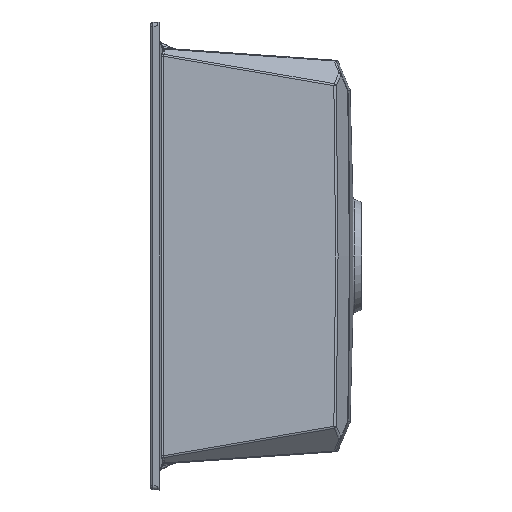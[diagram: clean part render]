
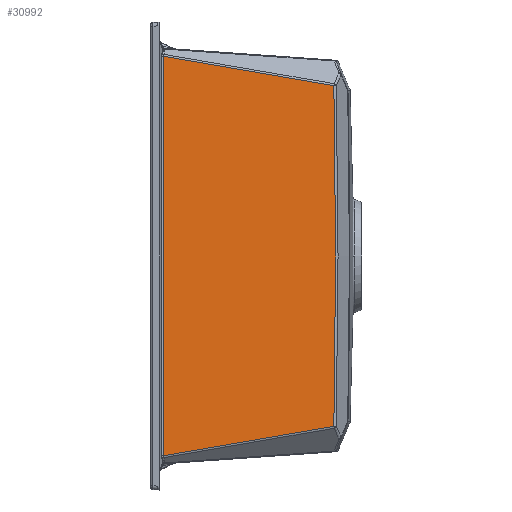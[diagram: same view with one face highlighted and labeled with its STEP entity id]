
A CAD part, left-side view. The second image highlights one B-rep face of the part: STEP entity #30992.
In plain terms, the highlighted planar face has unit normal (-0.998, -0.07, 0).
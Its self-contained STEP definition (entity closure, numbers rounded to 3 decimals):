
#132 = CARTESIAN_POINT ( 'NONE',  ( 40.785, -187.408, -341.188 ) ) ;
#242 = CARTESIAN_POINT ( 'NONE',  ( 40.743, -186.811, -386.498 ) ) ;
#360 = CARTESIAN_POINT ( 'NONE',  ( 40.779, -187.33, -151.768 ) ) ;
#617 = VECTOR ( 'NONE', #26622, 1000. ) ;
#675 = B_SPLINE_CURVE_WITH_KNOTS ( 'NONE', 3,
 ( #11832, #17035, #22325, #25037, #4158, #6753, #24812, #1920, #9374, #12050, #27441, #30162, #7562, #242, #10620, #28473, #2711, #25627, #33429, #26088, #23485, #2600, #132, #7684, #15456, #18410, #18191, #25747, #31299, #12872, #20991, #12755, #2938, #20753, #10514, #10173, #12981, #15801, #5068, #18069, #10399, #5314, #28255, #360, #15688, #30860, #15351, #23367, #31091, #15569, #5530, #8030, #7794, #17947, #7907, #2496, #20543, #18303, #23141 ),
 .UNSPECIFIED., .F., .F.,
 ( 4, 1, 1, 1, 1, 1, 1, 1, 1, 1, 2, 2, 1, 1, 1, 1, 1, 1, 1, 1, 1, 2, 2, 2, 1, 1, 1, 1, 1, 1, 1, 1, 1, 1, 2, 2, 1, 1, 1, 1, 1, 1, 1, 1, 1, 2, 2, 4 ),
 ( 0., 0.062, 0.094, 0.109, 0.117, 0.121, 0.123, 0.124, 0.125, 0.125, 0.125, 0.125, 0.188, 0.219, 0.234, 0.242, 0.246, 0.248, 0.249, 0.25, 0.25, 0.25, 0.25, 0.5, 0.625, 0.688, 0.719, 0.734, 0.742, 0.746, 0.748, 0.749, 0.75, 0.75, 0.75, 0.75, 0.813, 0.844, 0.859, 0.867, 0.871, 0.873, 0.874, 0.875, 0.875, 0.875, 0.875, 1. ),
 .UNSPECIFIED. ) ;
#1184 = VERTEX_POINT ( 'NONE', #16603 ) ;
#1210 = EDGE_LOOP ( 'NONE', ( #16172, #1556, #10925, #6711 ) ) ;
#1556 = ORIENTED_EDGE ( 'NONE', *, *, #15965, .T. ) ;
#1920 = CARTESIAN_POINT ( 'NONE',  ( 40.742, -186.8, -387.262 ) ) ;
#2240 = DIRECTION ( 'NONE',  ( -0.998, -0.07, 0. ) ) ;
#2496 = CARTESIAN_POINT ( 'NONE',  ( 40.743, -186.812, -113.531 ) ) ;
#2600 = CARTESIAN_POINT ( 'NONE',  ( 40.784, -187.406, -341.386 ) ) ;
#2682 = VERTEX_POINT ( 'NONE', #26114 ) ;
#2711 = CARTESIAN_POINT ( 'NONE',  ( 40.774, -187.261, -353.812 ) ) ;
#2819 = EDGE_CURVE ( 'NONE', #2682, #32547, #25294, .T. ) ;
#2938 = CARTESIAN_POINT ( 'NONE',  ( 40.795, -187.557, -173.021 ) ) ;
#3506 = VECTOR ( 'NONE', #19303, 1000. ) ;
#4158 = CARTESIAN_POINT ( 'NONE',  ( 40.736, -186.716, -392.76 ) ) ;
#4497 = CARTESIAN_POINT ( 'NONE',  ( 27.019, 9.442, -465. ) ) ;
#4898 = EDGE_CURVE ( 'NONE', #1184, #32547, #29707, .T. ) ;
#5068 = CARTESIAN_POINT ( 'NONE',  ( 40.785, -187.412, -159.23 ) ) ;
#5314 = CARTESIAN_POINT ( 'NONE',  ( 40.785, -187.41, -159.041 ) ) ;
#5530 = CARTESIAN_POINT ( 'NONE',  ( 40.743, -186.818, -113.95 ) ) ;
#6711 = ORIENTED_EDGE ( 'NONE', *, *, #2819, .T. ) ;
#6753 = CARTESIAN_POINT ( 'NONE',  ( 40.74, -186.764, -389.609 ) ) ;
#7562 = CARTESIAN_POINT ( 'NONE',  ( 40.743, -186.811, -386.511 ) ) ;
#7684 = CARTESIAN_POINT ( 'NONE',  ( 40.785, -187.409, -341.089 ) ) ;
#7794 = CARTESIAN_POINT ( 'NONE',  ( 40.743, -186.813, -113.625 ) ) ;
#7907 = CARTESIAN_POINT ( 'NONE',  ( 40.743, -186.812, -113.548 ) ) ;
#8004 = CARTESIAN_POINT ( 'NONE',  ( 27.947, -3.819, -463.429 ) ) ;
#8030 = CARTESIAN_POINT ( 'NONE',  ( 40.743, -186.815, -113.733 ) ) ;
#9374 = CARTESIAN_POINT ( 'NONE',  ( 40.742, -186.806, -386.872 ) ) ;
#10173 = CARTESIAN_POINT ( 'NONE',  ( 40.786, -187.429, -160.772 ) ) ;
#10399 = CARTESIAN_POINT ( 'NONE',  ( 40.785, -187.411, -159.072 ) ) ;
#10514 = CARTESIAN_POINT ( 'NONE',  ( 40.787, -187.449, -162.532 ) ) ;
#10620 = CARTESIAN_POINT ( 'NONE',  ( 40.751, -186.931, -378.561 ) ) ;
#10923 = DIRECTION ( 'NONE',  ( 0.069, -0.983, -0.17 ) ) ;
#10925 = ORIENTED_EDGE ( 'NONE', *, *, #11303, .F. ) ;
#11303 = EDGE_CURVE ( 'NONE', #2682, #27346, #23030, .T. ) ;
#11832 = CARTESIAN_POINT ( 'NONE',  ( 40.69, -186.058, -431.974 ) ) ;
#12050 = CARTESIAN_POINT ( 'NONE',  ( 40.743, -186.809, -386.678 ) ) ;
#12755 = CARTESIAN_POINT ( 'NONE',  ( 40.804, -187.684, -186.821 ) ) ;
#12872 = CARTESIAN_POINT ( 'NONE',  ( 40.822, -187.947, -235.804 ) ) ;
#12930 = VECTOR ( 'NONE', #10923, 1000. ) ;
#12981 = CARTESIAN_POINT ( 'NONE',  ( 40.785, -187.42, -159.891 ) ) ;
#14641 = DIRECTION ( 'NONE',  ( 0.07, -0.998, 0. ) ) ;
#14648 = CARTESIAN_POINT ( 'NONE',  ( 27.947, -3.819, -465. ) ) ;
#15351 = CARTESIAN_POINT ( 'NONE',  ( 40.75, -186.914, -120.412 ) ) ;
#15456 = CARTESIAN_POINT ( 'NONE',  ( 40.785, -187.409, -341.047 ) ) ;
#15569 = CARTESIAN_POINT ( 'NONE',  ( 40.744, -186.825, -114.383 ) ) ;
#15688 = CARTESIAN_POINT ( 'NONE',  ( 40.77, -187.195, -140.65 ) ) ;
#15774 = CARTESIAN_POINT ( 'NONE',  ( 32.044, -62.41, -46.684 ) ) ;
#15801 = CARTESIAN_POINT ( 'NONE',  ( 40.785, -187.415, -159.45 ) ) ;
#15965 = EDGE_CURVE ( 'NONE', #1184, #27346, #675, .T. ) ;
#16172 = ORIENTED_EDGE ( 'NONE', *, *, #4898, .F. ) ;
#16603 = CARTESIAN_POINT ( 'NONE',  ( 40.69, -186.058, -431.974 ) ) ;
#17034 = PLANE ( 'NONE',  #27214 ) ;
#17035 = CARTESIAN_POINT ( 'NONE',  ( 40.7, -186.202, -423.926 ) ) ;
#17947 = CARTESIAN_POINT ( 'NONE',  ( 40.743, -186.813, -113.579 ) ) ;
#18069 = CARTESIAN_POINT ( 'NONE',  ( 40.785, -187.411, -159.119 ) ) ;
#18191 = CARTESIAN_POINT ( 'NONE',  ( 40.785, -187.41, -341.006 ) ) ;
#18303 = CARTESIAN_POINT ( 'NONE',  ( 40.71, -186.346, -84.123 ) ) ;
#18410 = CARTESIAN_POINT ( 'NONE',  ( 40.785, -187.41, -341.019 ) ) ;
#18762 = CARTESIAN_POINT ( 'NONE',  ( 40.69, -186.058, -68.026 ) ) ;
#19303 = DIRECTION ( 'NONE',  ( 0., 0., -1. ) ) ;
#20543 = CARTESIAN_POINT ( 'NONE',  ( 40.728, -186.598, -99.286 ) ) ;
#20753 = CARTESIAN_POINT ( 'NONE',  ( 40.79, -187.486, -166.042 ) ) ;
#20991 = CARTESIAN_POINT ( 'NONE',  ( 40.818, -187.88, -213.784 ) ) ;
#22325 = CARTESIAN_POINT ( 'NONE',  ( 40.714, -186.405, -412.203 ) ) ;
#23030 = LINE ( 'NONE', #15774, #12930 ) ;
#23141 = CARTESIAN_POINT ( 'NONE',  ( 40.69, -186.058, -68.026 ) ) ;
#23367 = CARTESIAN_POINT ( 'NONE',  ( 40.746, -186.863, -116.974 ) ) ;
#23485 = CARTESIAN_POINT ( 'NONE',  ( 40.784, -187.401, -341.783 ) ) ;
#24812 = CARTESIAN_POINT ( 'NONE',  ( 40.741, -186.788, -388.043 ) ) ;
#25037 = CARTESIAN_POINT ( 'NONE',  ( 40.729, -186.616, -399.139 ) ) ;
#25294 = LINE ( 'NONE', #14648, #3506 ) ;
#25627 = CARTESIAN_POINT ( 'NONE',  ( 40.78, -187.338, -347.364 ) ) ;
#25747 = CARTESIAN_POINT ( 'NONE',  ( 40.81, -187.768, -308.72 ) ) ;
#26088 = CARTESIAN_POINT ( 'NONE',  ( 40.783, -187.392, -342.577 ) ) ;
#26114 = CARTESIAN_POINT ( 'NONE',  ( 27.947, -3.819, -36.571 ) ) ;
#26622 = DIRECTION ( 'NONE',  ( -0.069, 0.983, -0.17 ) ) ;
#27214 = AXIS2_PLACEMENT_3D ( 'NONE', #4497, #2240, #14641 ) ;
#27346 = VERTEX_POINT ( 'NONE', #18762 ) ;
#27441 = CARTESIAN_POINT ( 'NONE',  ( 40.743, -186.81, -386.58 ) ) ;
#28255 = CARTESIAN_POINT ( 'NONE',  ( 40.785, -187.41, -159.023 ) ) ;
#28473 = CARTESIAN_POINT ( 'NONE',  ( 40.763, -187.095, -366.932 ) ) ;
#28995 = CARTESIAN_POINT ( 'NONE',  ( 27.464, 3.091, -464.622 ) ) ;
#29707 = LINE ( 'NONE', #28995, #617 ) ;
#30162 = CARTESIAN_POINT ( 'NONE',  ( 40.743, -186.811, -386.539 ) ) ;
#30759 = FACE_OUTER_BOUND ( 'NONE', #1210, .T. ) ;
#30860 = CARTESIAN_POINT ( 'NONE',  ( 40.757, -187.012, -127.233 ) ) ;
#30992 = ADVANCED_FACE ( 'NONE', ( #30759 ), #17034, .T. ) ;
#31091 = CARTESIAN_POINT ( 'NONE',  ( 40.745, -186.838, -115.248 ) ) ;
#31299 = CARTESIAN_POINT ( 'NONE',  ( 40.822, -187.947, -278.389 ) ) ;
#32547 = VERTEX_POINT ( 'NONE', #8004 ) ;
#33429 = CARTESIAN_POINT ( 'NONE',  ( 40.782, -187.374, -344.168 ) ) ;
